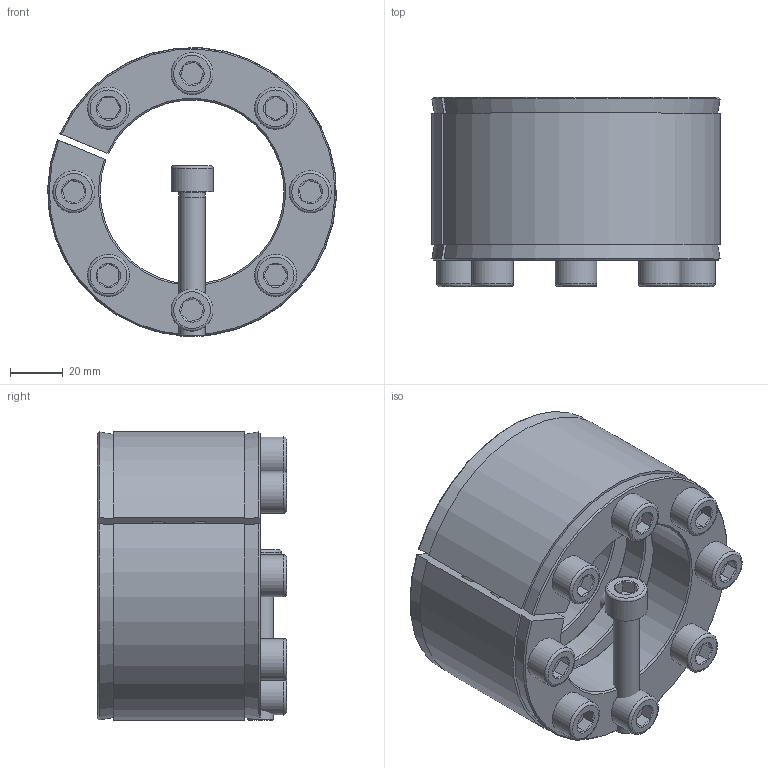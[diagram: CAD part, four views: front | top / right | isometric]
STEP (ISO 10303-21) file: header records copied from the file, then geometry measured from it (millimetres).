
FILE_DESCRIPTION( ( 'Unknown' ), '1' );
FILE_NAME( 'C:/Users/Frank/Eigene Daten/CAD/Solid Edge/KBK Karpstein/KBS Layout Baureihen/KBS 18/KBS - 70 x 110.stp', 'Unknown', ( 'Unknown' ), ( 'Unknown' ), 'XStep 1.0', 'Unknown', ' ' );
FILE_SCHEMA( ( 'automotive_design' ) );
Length unit declared in the file: millimetre
Products named in the file (3): Assem1; ISO EN DIN 4762 M10x55; KBS 18 - 70 x 110
Bounding box: 109.93 x 72 x 109.91 mm (x, y, z)
Volume: 588985.1 mm3; surface area: 174254.6 mm2
Topology: 11 solids, 11 shells, 341 faces, 777 edges, 462 vertices
Faces by surface type: plane 144, cylinder 92, cone 87, torus 18
Full cylindrical faces by diameter (mm): 8.376 x16, 9 x9, 10 x18, 11 x32, 16 x9
Entity records: 3270 total; most frequent: CARTESIAN_POINT 645, DIRECTION 464, ORIENTED_EDGE 390, AXIS2_PLACEMENT_3D 214, EDGE_CURVE 195, EDGE_LOOP 150, VERTEX_POINT 135, CIRCLE 121
